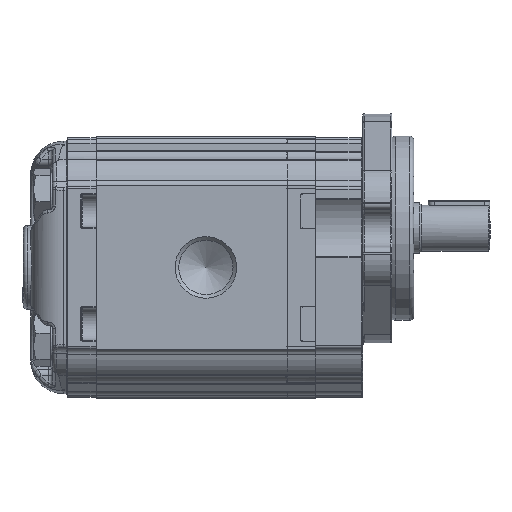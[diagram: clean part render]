
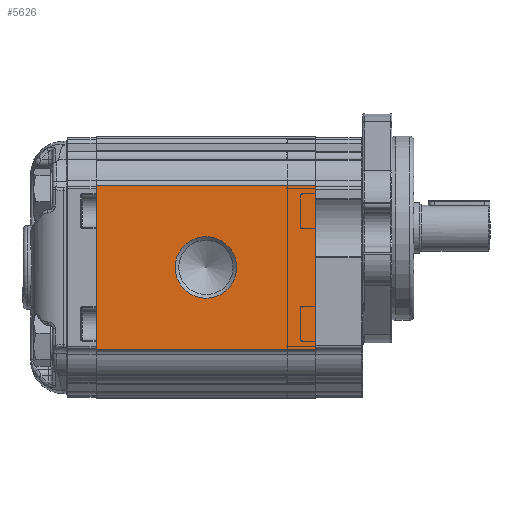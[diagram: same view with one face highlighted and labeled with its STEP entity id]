
A CAD part, left-side view. The second image highlights one B-rep face of the part: STEP entity #5626.
In plain terms, the highlighted planar face has unit normal (-1, 0, 0).
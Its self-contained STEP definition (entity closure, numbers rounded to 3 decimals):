
#5626 = ADVANCED_FACE( '', ( #11516, #11517 ), #11518, .T. );
#11516 = FACE_BOUND( '', #20690, .T. );
#11517 = FACE_OUTER_BOUND( '', #20691, .T. );
#11518 = PLANE( '', #20692 );
#20690 = EDGE_LOOP( '', ( #37480 ) );
#20691 = EDGE_LOOP( '', ( #37481, #37482, #37483, #37484 ) );
#20692 = AXIS2_PLACEMENT_3D( '', #37485, #37486, #37487 );
#37480 = ORIENTED_EDGE( '', *, *, #42780, .F. );
#37481 = ORIENTED_EDGE( '', *, *, #41825, .T. );
#37482 = ORIENTED_EDGE( '', *, *, #44109, .T. );
#37483 = ORIENTED_EDGE( '', *, *, #38331, .T. );
#37484 = ORIENTED_EDGE( '', *, *, #43971, .F. );
#37485 = CARTESIAN_POINT( '', ( -33., 132.376, 48.138 ) );
#37486 = DIRECTION( '', ( -1., 0., 0. ) );
#37487 = DIRECTION( '', ( 0., 0., 1. ) );
#38331 = EDGE_CURVE( '', #45486, #45487, #45488, .F. );
#41825 = EDGE_CURVE( '', #50941, #50942, #50943, .T. );
#42780 = EDGE_CURVE( '', #52142, #52142, #52143, .F. );
#43971 = EDGE_CURVE( '', #50941, #45487, #53457, .T. );
#44109 = EDGE_CURVE( '', #50942, #45486, #53597, .T. );
#45486 = VERTEX_POINT( '', #55728 );
#45487 = VERTEX_POINT( '', #55729 );
#45488 = LINE( '', #55730, #55731 );
#50941 = VERTEX_POINT( '', #66145 );
#50942 = VERTEX_POINT( '', #66146 );
#50943 = LINE( '', #66147, #66148 );
#52142 = VERTEX_POINT( '', #68787 );
#52143 = CIRCLE( '', #68788, 8.475 );
#53457 = LINE( '', #71031, #71032 );
#53597 = LINE( '', #71217, #71218 );
#55728 = CARTESIAN_POINT( '', ( -33., 0., 22.5 ) );
#55729 = CARTESIAN_POINT( '', ( -33., 60.5, 22.5 ) );
#55730 = CARTESIAN_POINT( '', ( -33., 60.5, 22.5 ) );
#55731 = VECTOR( '', #72295, 1000. );
#66145 = CARTESIAN_POINT( '', ( -33., 60.5, -22.5 ) );
#66146 = CARTESIAN_POINT( '', ( -33., 0., -22.5 ) );
#66147 = CARTESIAN_POINT( '', ( -33., 60.5, -22.5 ) );
#66148 = VECTOR( '', #76575, 1000. );
#68787 = CARTESIAN_POINT( '', ( -33., 30.25, -8.475 ) );
#68788 = AXIS2_PLACEMENT_3D( '', #77530, #77531, #77532 );
#71031 = CARTESIAN_POINT( '', ( -33., 60.5, -21.711 ) );
#71032 = VECTOR( '', #78506, 1000. );
#71217 = CARTESIAN_POINT( '', ( -33., 0., -21.711 ) );
#71218 = VECTOR( '', #78577, 1000. );
#72295 = DIRECTION( '', ( 0., -1., 0. ) );
#76575 = DIRECTION( '', ( 0., -1., 0. ) );
#77530 = CARTESIAN_POINT( '', ( -33., 30.25, 0. ) );
#77531 = DIRECTION( '', ( 1., 0., 0. ) );
#77532 = DIRECTION( '', ( 0., 0., -1. ) );
#78506 = DIRECTION( '', ( 0., 0., 1. ) );
#78577 = DIRECTION( '', ( 0., 0., 1. ) );
